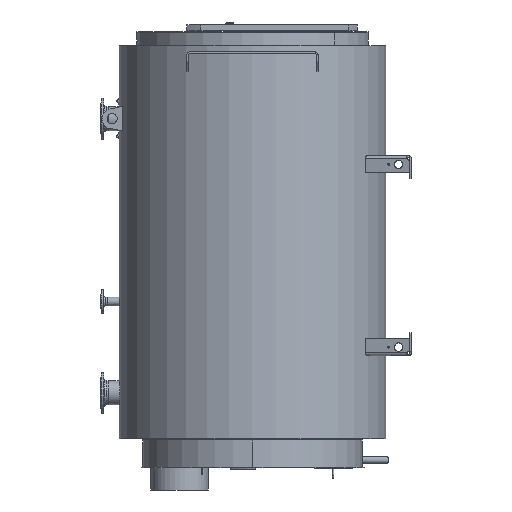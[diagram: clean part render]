
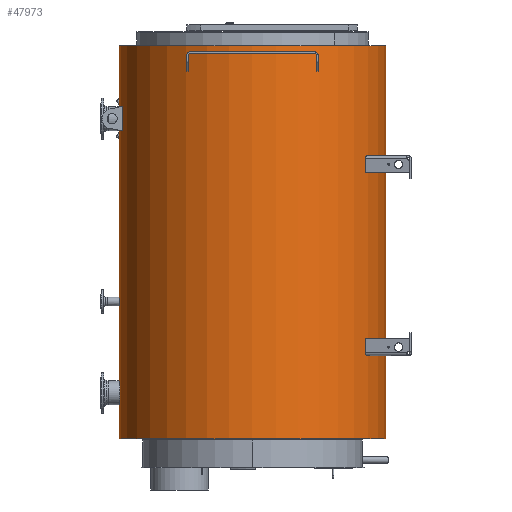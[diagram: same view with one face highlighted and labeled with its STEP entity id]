
A CAD part, left-side view. The second image highlights one B-rep face of the part: STEP entity #47973.
In plain terms, the highlighted cylindrical face has radius 932.5 mm (diameter 1865 mm), a full revolution.
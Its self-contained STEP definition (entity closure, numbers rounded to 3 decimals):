
#47929=CARTESIAN_POINT('',(-932.5,-0.,192.));
#47930=VERTEX_POINT('',#47929);
#47931=CARTESIAN_POINT('',(0.,0.,192.));
#47932=DIRECTION('',(-0.,-0.,1.));
#47933=DIRECTION('',(-1.,0.,0.));
#47934=AXIS2_PLACEMENT_3D('',#47931,#47932,#47933);
#47935=CIRCLE('',#47934,932.5);
#47936=EDGE_CURVE('',#47930,#47930,#47935,.T.);
#47949=CARTESIAN_POINT('',(0.,0.,192.002));
#47950=DIRECTION('',(0.,0.,-1.));
#47951=DIRECTION('',(-1.,0.,0.));
#47952=AXIS2_PLACEMENT_3D('',#47949,#47950,#47951);
#47953=CYLINDRICAL_SURFACE('',#47952,932.5);
#47954=CARTESIAN_POINT('',(-932.5,-0.,-2559.));
#47955=VERTEX_POINT('',#47954);
#47956=CARTESIAN_POINT('',(-932.5,0.,-2559.));
#47957=DIRECTION('',(-0.,-0.,1.));
#47958=VECTOR('',#47957,2751.);
#47959=LINE('',#47956,#47958);
#47960=EDGE_CURVE('',#47955,#47930,#47959,.T.);
#47961=ORIENTED_EDGE('',*,*,#47960,.T.);
#47962=ORIENTED_EDGE('',*,*,#47936,.F.);
#47963=ORIENTED_EDGE('',*,*,#47960,.F.);
#47964=CARTESIAN_POINT('',(0.,0.,-2559.));
#47965=DIRECTION('',(0.,0.,-1.));
#47966=DIRECTION('',(-1.,0.,0.));
#47967=AXIS2_PLACEMENT_3D('',#47964,#47965,#47966);
#47968=CIRCLE('',#47967,932.5);
#47969=EDGE_CURVE('',#47955,#47955,#47968,.T.);
#47970=ORIENTED_EDGE('',*,*,#47969,.F.);
#47971=EDGE_LOOP('',(#47961,#47962,#47963,#47970));
#47972=FACE_BOUND('',#47971,.T.);
#47973=ADVANCED_FACE('',(#47972),#47953,.T.);
